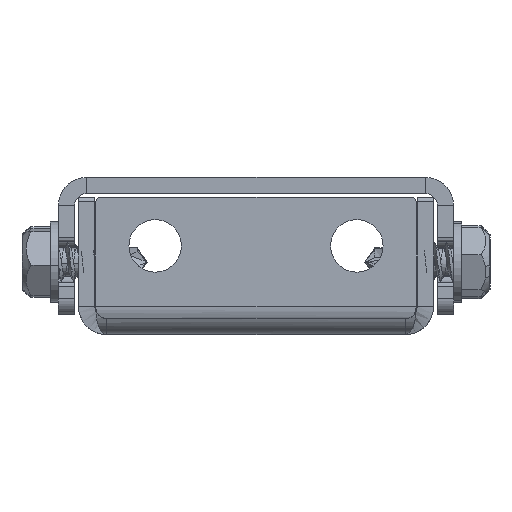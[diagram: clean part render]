
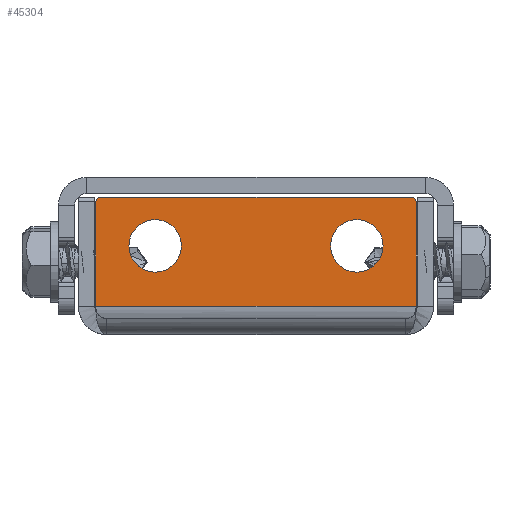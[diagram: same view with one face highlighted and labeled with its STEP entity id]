
A CAD part, left-side view. The second image highlights one B-rep face of the part: STEP entity #45304.
In plain terms, the highlighted planar face has unit normal (-1, 0, 0).
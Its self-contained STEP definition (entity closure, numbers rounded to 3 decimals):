
#972 = PLANE ( 'NONE',  #92282 ) ;
#2111 = DIRECTION ( 'NONE',  ( -1., 0., 0. ) ) ;
#2320 = ORIENTED_EDGE ( 'NONE', *, *, #14354, .T. ) ;
#2599 = VERTEX_POINT ( 'NONE', #85388 ) ;
#5194 = DIRECTION ( 'NONE',  ( 0., -1., 0. ) ) ;
#5305 = DIRECTION ( 'NONE',  ( 0., -1., 0. ) ) ;
#7185 = EDGE_CURVE ( 'NONE', #29668, #2599, #41435, .T. ) ;
#10970 = VECTOR ( 'NONE', #81914, 1000. ) ;
#11113 = ORIENTED_EDGE ( 'NONE', *, *, #87082, .T. ) ;
#12101 = DIRECTION ( 'NONE',  ( 1., 0., 0. ) ) ;
#14023 = ORIENTED_EDGE ( 'NONE', *, *, #77604, .F. ) ;
#14354 = EDGE_CURVE ( 'NONE', #60769, #76355, #70762, .T. ) ;
#14418 = ORIENTED_EDGE ( 'NONE', *, *, #61795, .T. ) ;
#14574 = EDGE_LOOP ( 'NONE', ( #74760, #17839, #53468, #14023, #11113, #18394 ) ) ;
#14856 = CARTESIAN_POINT ( 'NONE',  ( -26., 19.359, -17. ) ) ;
#16607 = LINE ( 'NONE', #76267, #44492 ) ;
#17839 = ORIENTED_EDGE ( 'NONE', *, *, #57828, .T. ) ;
#18198 = CARTESIAN_POINT ( 'NONE',  ( -26., 19.359, -16.5 ) ) ;
#18394 = ORIENTED_EDGE ( 'NONE', *, *, #75387, .T. ) ;
#20401 = VERTEX_POINT ( 'NONE', #33815 ) ;
#22729 = CARTESIAN_POINT ( 'NONE',  ( -26., -19.859, -3.5 ) ) ;
#23965 = CARTESIAN_POINT ( 'NONE',  ( -26., 12.5, -11. ) ) ;
#24639 = DIRECTION ( 'NONE',  ( 0., 0., -1. ) ) ;
#27597 = CARTESIAN_POINT ( 'NONE',  ( -26., 0., -17. ) ) ;
#28067 = DIRECTION ( 'NONE',  ( 1., 0., 0. ) ) ;
#29595 = AXIS2_PLACEMENT_3D ( 'NONE', #23965, #66121, #83612 ) ;
#29668 = VERTEX_POINT ( 'NONE', #14856 ) ;
#31122 = AXIS2_PLACEMENT_3D ( 'NONE', #62465, #78210, #71082 ) ;
#33022 = DIRECTION ( 'NONE',  ( 0., 0., -1. ) ) ;
#33815 = CARTESIAN_POINT ( 'NONE',  ( -26., 19.859, -16.5 ) ) ;
#34284 = VERTEX_POINT ( 'NONE', #74346 ) ;
#34485 = VECTOR ( 'NONE', #5305, 1000. ) ;
#37228 = FACE_BOUND ( 'NONE', #78647, .T. ) ;
#38098 = CIRCLE ( 'NONE', #73133, 0.5 ) ;
#39326 = CARTESIAN_POINT ( 'NONE',  ( -26., 12.5, -7.75 ) ) ;
#40030 = VERTEX_POINT ( 'NONE', #56322 ) ;
#41119 = AXIS2_PLACEMENT_3D ( 'NONE', #55553, #12101, #41207 ) ;
#41207 = DIRECTION ( 'NONE',  ( 0., 0., -1. ) ) ;
#41435 = LINE ( 'NONE', #27597, #92850 ) ;
#41547 = LINE ( 'NONE', #70687, #34485 ) ;
#44492 = VECTOR ( 'NONE', #45712, 1000. ) ;
#45304 = ADVANCED_FACE ( 'NONE', ( #76671, #37228, #54713 ), #972, .F. ) ;
#45712 = DIRECTION ( 'NONE',  ( 0., 0., -1. ) ) ;
#47306 = DIRECTION ( 'NONE',  ( -1., 0., 0. ) ) ;
#49908 = EDGE_CURVE ( 'NONE', #87319, #73328, #70092, .T. ) ;
#52675 = CARTESIAN_POINT ( 'NONE',  ( -26., -12.5, -7.75 ) ) ;
#53273 = EDGE_LOOP ( 'NONE', ( #72336, #54603 ) ) ;
#53468 = ORIENTED_EDGE ( 'NONE', *, *, #93212, .F. ) ;
#53893 = AXIS2_PLACEMENT_3D ( 'NONE', #18198, #47306, #33022 ) ;
#54603 = ORIENTED_EDGE ( 'NONE', *, *, #75843, .T. ) ;
#54713 = FACE_OUTER_BOUND ( 'NONE', #14574, .T. ) ;
#55553 = CARTESIAN_POINT ( 'NONE',  ( -26., -12.5, -11. ) ) ;
#56322 = CARTESIAN_POINT ( 'NONE',  ( -26., -19.859, -3.5 ) ) ;
#56696 = CARTESIAN_POINT ( 'NONE',  ( -26., 12.5, -11. ) ) ;
#57828 = EDGE_CURVE ( 'NONE', #2599, #92000, #38098, .T. ) ;
#59885 = AXIS2_PLACEMENT_3D ( 'NONE', #56696, #28067, #86769 ) ;
#60769 = VERTEX_POINT ( 'NONE', #39326 ) ;
#61268 = CARTESIAN_POINT ( 'NONE',  ( -26., -19.359, -16.5 ) ) ;
#61795 = EDGE_CURVE ( 'NONE', #76355, #60769, #75164, .T. ) ;
#62465 = CARTESIAN_POINT ( 'NONE',  ( -26., -12.5, -11. ) ) ;
#65688 = CARTESIAN_POINT ( 'NONE',  ( -26., -12.5, -14.25 ) ) ;
#66121 = DIRECTION ( 'NONE',  ( 1., 0., 0. ) ) ;
#70092 = CIRCLE ( 'NONE', #41119, 3.25 ) ;
#70180 = CARTESIAN_POINT ( 'NONE',  ( -26., 12.5, -14.25 ) ) ;
#70687 = CARTESIAN_POINT ( 'NONE',  ( -26., -18.5, -3.5 ) ) ;
#70762 = CIRCLE ( 'NONE', #29595, 3.25 ) ;
#71082 = DIRECTION ( 'NONE',  ( 0., 0., -1. ) ) ;
#72336 = ORIENTED_EDGE ( 'NONE', *, *, #49908, .T. ) ;
#73133 = AXIS2_PLACEMENT_3D ( 'NONE', #61268, #2111, #83697 ) ;
#73328 = VERTEX_POINT ( 'NONE', #52675 ) ;
#74346 = CARTESIAN_POINT ( 'NONE',  ( -26., 19.859, -3.5 ) ) ;
#74760 = ORIENTED_EDGE ( 'NONE', *, *, #7185, .T. ) ;
#75164 = CIRCLE ( 'NONE', #59885, 3.25 ) ;
#75387 = EDGE_CURVE ( 'NONE', #20401, #29668, #85926, .T. ) ;
#75843 = EDGE_CURVE ( 'NONE', #73328, #87319, #81420, .T. ) ;
#76267 = CARTESIAN_POINT ( 'NONE',  ( -26., 19.859, -3.5 ) ) ;
#76355 = VERTEX_POINT ( 'NONE', #70180 ) ;
#76671 = FACE_BOUND ( 'NONE', #53273, .T. ) ;
#77604 = EDGE_CURVE ( 'NONE', #34284, #40030, #41547, .T. ) ;
#78210 = DIRECTION ( 'NONE',  ( 1., 0., 0. ) ) ;
#78647 = EDGE_LOOP ( 'NONE', ( #14418, #2320 ) ) ;
#79031 = CARTESIAN_POINT ( 'NONE',  ( -26., -19.859, -16.5 ) ) ;
#81124 = CARTESIAN_POINT ( 'NONE',  ( -26., 0., 0. ) ) ;
#81420 = CIRCLE ( 'NONE', #31122, 3.25 ) ;
#81914 = DIRECTION ( 'NONE',  ( 0., 0., -1. ) ) ;
#83612 = DIRECTION ( 'NONE',  ( 0., 0., -1. ) ) ;
#83697 = DIRECTION ( 'NONE',  ( 0., 0., -1. ) ) ;
#85388 = CARTESIAN_POINT ( 'NONE',  ( -26., -19.359, -17. ) ) ;
#85926 = CIRCLE ( 'NONE', #53893, 0.5 ) ;
#86769 = DIRECTION ( 'NONE',  ( 0., 0., -1. ) ) ;
#87082 = EDGE_CURVE ( 'NONE', #34284, #20401, #16607, .T. ) ;
#87319 = VERTEX_POINT ( 'NONE', #65688 ) ;
#89566 = LINE ( 'NONE', #22729, #10970 ) ;
#90058 = DIRECTION ( 'NONE',  ( 1., 0., 0. ) ) ;
#92000 = VERTEX_POINT ( 'NONE', #79031 ) ;
#92282 = AXIS2_PLACEMENT_3D ( 'NONE', #81124, #90058, #24639 ) ;
#92850 = VECTOR ( 'NONE', #5194, 1000. ) ;
#93212 = EDGE_CURVE ( 'NONE', #40030, #92000, #89566, .T. ) ;
